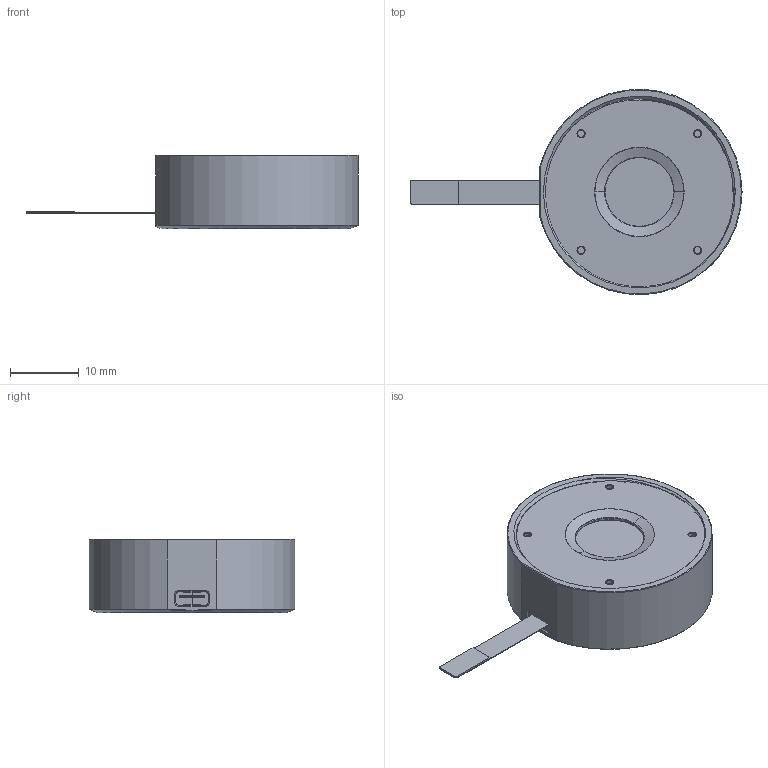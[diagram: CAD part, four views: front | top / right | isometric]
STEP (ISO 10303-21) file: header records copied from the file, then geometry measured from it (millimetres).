
FILE_DESCRIPTION (( 'STEP AP214' ), '1' );
FILE_NAME ('133-143-XX_Rev_A.STEP', '2017-04-25T11:43:35', ( '' ), ( '' ), 'SwSTEP 2.0', 'SolidWorks 2015', '' );
FILE_SCHEMA (( 'AUTOMOTIVE_DESIGN' ));
Length unit declared in the file: millimetre
Products named in the file (12): 133-143-XX_Rev_A; 134-331-00_01; 133-145-00_01; 102-153-00_marketing; 102-053-XX_Marketing Model; 102-105-XX_01; 102-051-01_Marketing Model; 135-646-00; 131-663-XX_Marketing 10-30 TC; 133-144-00_01; 102-052-01_Marketing Model
Assembly tree (11 placements, depth 4):
  133-143-XX_Rev_A
    133-144-00_01
    133-145-00_01
    102-053-XX_Marketing Model
      102-105-XX_01
      131-663-XX_Marketing 10-30 TC
    134-331-00_01
    102-105-XX_01
    102-051-01_Marketing Model
      102-052-01_Marketing Model
        102-153-00_marketing
    135-646-00
Bounding box: 48.35 x 29.88 x 10.7 mm (x, y, z)
Volume: 1812 mm3; surface area: 6100.9 mm2
Topology: 10 solids, 10 shells, 597 faces, 1517 edges, 986 vertices
Faces by surface type: plane 293, bspline 162, cylinder 79, cone 32, torus 31
Entity records: 32915 total; most frequent: CARTESIAN_POINT 14584, ORIENTED_EDGE 3030, DIRECTION 2244, EDGE_CURVE 1515, VERTEX_POINT 986, LINE 904, VECTOR 904, AXIS2_PLACEMENT_3D 670
